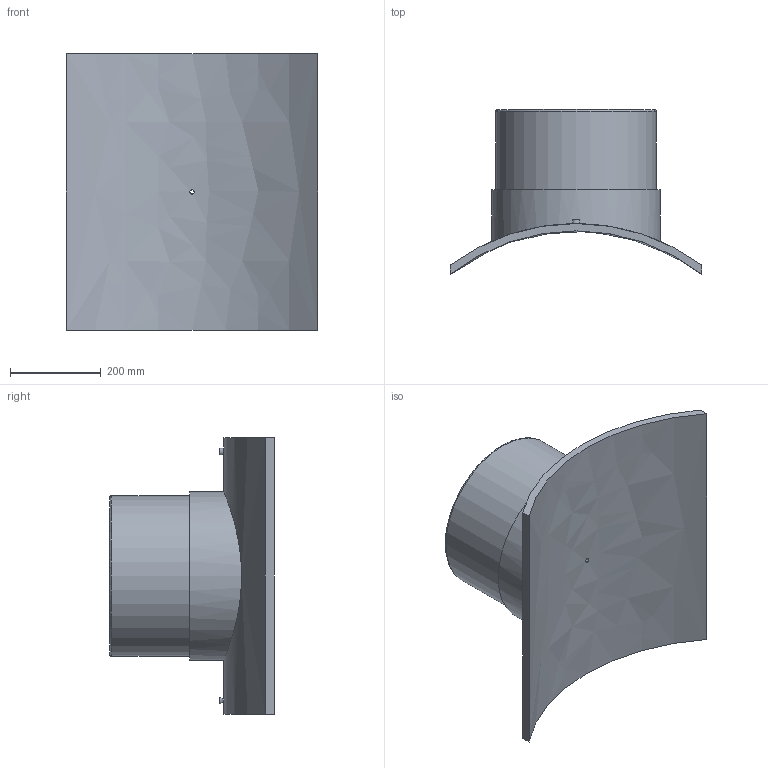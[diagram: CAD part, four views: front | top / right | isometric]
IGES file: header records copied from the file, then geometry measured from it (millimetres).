
Global section: file name: 495803900355T.ipt; native system: Autodesk Inventor 2019; preprocessor: unknown; author: KIM; date: 20210225.095248; units: millimetre
Bounding box: 554 x 363.36 x 610 mm (x, y, z)
Volume: 16249888.7 mm3; surface area: 1319288.6 mm2
Topology: 2 solids, 2 shells, 29 faces, 54 edges, 38 vertices
Faces by surface type: plane 13, revolution 7, cylinder 7, cone 2
Full cylindrical faces by diameter (mm): 4 x2, 16 x1, 355 x1, 372.75 x1
